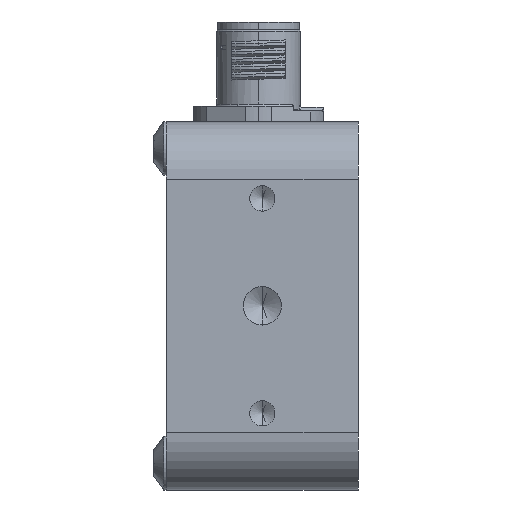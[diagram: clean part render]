
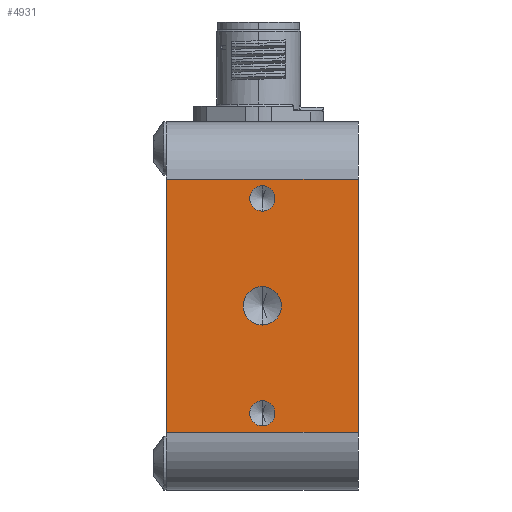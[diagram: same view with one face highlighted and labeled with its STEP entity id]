
A CAD part, left-side view. The second image highlights one B-rep face of the part: STEP entity #4931.
In plain terms, the highlighted planar face has unit normal (-1, 0, 0).
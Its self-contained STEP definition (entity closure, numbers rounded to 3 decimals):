
#75 = CARTESIAN_POINT ( 'NONE',  ( 0., 12.5, 26.5 ) ) ;
#262 = CARTESIAN_POINT ( 'NONE',  ( 0., 12.5, 38. ) ) ;
#279 = DIRECTION ( 'NONE',  ( 0., 0., 1. ) ) ;
#638 = DIRECTION ( 'NONE',  ( -1., 0., 0. ) ) ;
#695 = AXIS2_PLACEMENT_3D ( 'NONE', #15719, #638, #20597 ) ;
#737 = CARTESIAN_POINT ( 'NONE',  ( 0., 12.5, 38. ) ) ;
#1590 = CARTESIAN_POINT ( 'NONE',  ( 0., 12.5, 10. ) ) ;
#1693 = DIRECTION ( 'NONE',  ( 0., 0., 1. ) ) ;
#1739 = CARTESIAN_POINT ( 'NONE',  ( 0., 12.5, 36.35 ) ) ;
#2311 = AXIS2_PLACEMENT_3D ( 'NONE', #6592, #19310, #1693 ) ;
#2614 = DIRECTION ( 'NONE',  ( -1., 0., 0. ) ) ;
#2792 = ORIENTED_EDGE ( 'NONE', *, *, #28668, .F. ) ;
#3279 = EDGE_CURVE ( 'NONE', #31564, #24330, #29574, .T. ) ;
#3411 = CARTESIAN_POINT ( 'NONE',  ( 0., 25., 0. ) ) ;
#3645 = VECTOR ( 'NONE', #25934, 1000. ) ;
#3690 = ORIENTED_EDGE ( 'NONE', *, *, #31769, .T. ) ;
#3875 = CARTESIAN_POINT ( 'NONE',  ( 0., 12.5, 11.65 ) ) ;
#3916 = VECTOR ( 'NONE', #5023, 1000. ) ;
#4269 = EDGE_CURVE ( 'NONE', #18481, #30234, #5197, .T. ) ;
#4931 = ADVANCED_FACE ( 'NONE', ( #14937, #30101, #21722, #6259 ), #16499, .T. ) ;
#5023 = DIRECTION ( 'NONE',  ( 0., 1., 0. ) ) ;
#5197 = CIRCLE ( 'NONE', #11159, 1.65 ) ;
#5519 = DIRECTION ( 'NONE',  ( -1., 0., 0. ) ) ;
#5601 = ORIENTED_EDGE ( 'NONE', *, *, #21090, .F. ) ;
#6259 = FACE_OUTER_BOUND ( 'NONE', #31406, .T. ) ;
#6376 = EDGE_CURVE ( 'NONE', #30234, #18481, #15571, .T. ) ;
#6592 = CARTESIAN_POINT ( 'NONE',  ( 0., 12.5, 10. ) ) ;
#6745 = CARTESIAN_POINT ( 'NONE',  ( 0., 0., 0. ) ) ;
#7121 = CIRCLE ( 'NONE', #695, 2.5 ) ;
#7231 = CARTESIAN_POINT ( 'NONE',  ( 0., 0., 0. ) ) ;
#8272 = LINE ( 'NONE', #17525, #3916 ) ;
#9904 = LINE ( 'NONE', #7231, #28195 ) ;
#9927 = CARTESIAN_POINT ( 'NONE',  ( 0., 0., 40.5 ) ) ;
#10405 = ORIENTED_EDGE ( 'NONE', *, *, #20151, .T. ) ;
#10907 = EDGE_CURVE ( 'NONE', #19944, #21569, #26283, .T. ) ;
#11159 = AXIS2_PLACEMENT_3D ( 'NONE', #737, #5519, #279 ) ;
#11516 = DIRECTION ( 'NONE',  ( 0., -1., 0. ) ) ;
#12112 = ORIENTED_EDGE ( 'NONE', *, *, #29684, .F. ) ;
#13001 = ORIENTED_EDGE ( 'NONE', *, *, #3279, .F. ) ;
#13148 = CIRCLE ( 'NONE', #24541, 2.5 ) ;
#13370 = DIRECTION ( 'NONE',  ( -1., 0., 0. ) ) ;
#13476 = CARTESIAN_POINT ( 'NONE',  ( 0., 25., 40.5 ) ) ;
#14849 = CARTESIAN_POINT ( 'NONE',  ( 0., 0., 7.5 ) ) ;
#14937 = FACE_BOUND ( 'NONE', #26572, .T. ) ;
#15571 = CIRCLE ( 'NONE', #22886, 1.65 ) ;
#15719 = CARTESIAN_POINT ( 'NONE',  ( 0., 12.5, 24. ) ) ;
#16345 = CARTESIAN_POINT ( 'NONE',  ( 0., 25., 7.5 ) ) ;
#16354 = VERTEX_POINT ( 'NONE', #75 ) ;
#16499 = PLANE ( 'NONE',  #21781 ) ;
#17259 = VERTEX_POINT ( 'NONE', #18306 ) ;
#17337 = LINE ( 'NONE', #29089, #26900 ) ;
#17525 = CARTESIAN_POINT ( 'NONE',  ( 0., 0., 40.5 ) ) ;
#18016 = DIRECTION ( 'NONE',  ( 0., 0., 1. ) ) ;
#18306 = CARTESIAN_POINT ( 'NONE',  ( 0., 12.5, 21.5 ) ) ;
#18481 = VERTEX_POINT ( 'NONE', #20402 ) ;
#19309 = DIRECTION ( 'NONE',  ( -1., 0., 0. ) ) ;
#19310 = DIRECTION ( 'NONE',  ( -1., 0., 0. ) ) ;
#19355 = DIRECTION ( 'NONE',  ( 0., 0., 1. ) ) ;
#19944 = VERTEX_POINT ( 'NONE', #16345 ) ;
#20151 = EDGE_CURVE ( 'NONE', #30699, #21569, #8272, .T. ) ;
#20361 = ORIENTED_EDGE ( 'NONE', *, *, #10907, .F. ) ;
#20402 = CARTESIAN_POINT ( 'NONE',  ( 0., 12.5, 39.65 ) ) ;
#20597 = DIRECTION ( 'NONE',  ( 0., 0., 1. ) ) ;
#21090 = EDGE_CURVE ( 'NONE', #16354, #17259, #7121, .T. ) ;
#21569 = VERTEX_POINT ( 'NONE', #13476 ) ;
#21722 = FACE_BOUND ( 'NONE', #27550, .T. ) ;
#21781 = AXIS2_PLACEMENT_3D ( 'NONE', #6745, #24478, #19355 ) ;
#22324 = CIRCLE ( 'NONE', #29942, 1.65 ) ;
#22886 = AXIS2_PLACEMENT_3D ( 'NONE', #262, #13370, #18016 ) ;
#23301 = ORIENTED_EDGE ( 'NONE', *, *, #6376, .F. ) ;
#24330 = VERTEX_POINT ( 'NONE', #3875 ) ;
#24478 = DIRECTION ( 'NONE',  ( -1., 0., 0. ) ) ;
#24541 = AXIS2_PLACEMENT_3D ( 'NONE', #30737, #2614, #28033 ) ;
#25542 = ORIENTED_EDGE ( 'NONE', *, *, #4269, .F. ) ;
#25934 = DIRECTION ( 'NONE',  ( 0., 0., 1. ) ) ;
#26283 = LINE ( 'NONE', #3411, #3645 ) ;
#26572 = EDGE_LOOP ( 'NONE', ( #12112, #13001 ) ) ;
#26670 = CARTESIAN_POINT ( 'NONE',  ( 0., 12.5, 8.35 ) ) ;
#26900 = VECTOR ( 'NONE', #11516, 1000. ) ;
#27550 = EDGE_LOOP ( 'NONE', ( #5601, #2792 ) ) ;
#28033 = DIRECTION ( 'NONE',  ( 0., 0., 1. ) ) ;
#28134 = ORIENTED_EDGE ( 'NONE', *, *, #28206, .T. ) ;
#28195 = VECTOR ( 'NONE', #30218, 1000. ) ;
#28206 = EDGE_CURVE ( 'NONE', #19944, #29864, #17337, .T. ) ;
#28668 = EDGE_CURVE ( 'NONE', #17259, #16354, #13148, .T. ) ;
#29089 = CARTESIAN_POINT ( 'NONE',  ( 0., 0., 7.5 ) ) ;
#29574 = CIRCLE ( 'NONE', #2311, 1.65 ) ;
#29684 = EDGE_CURVE ( 'NONE', #24330, #31564, #22324, .T. ) ;
#29864 = VERTEX_POINT ( 'NONE', #14849 ) ;
#29942 = AXIS2_PLACEMENT_3D ( 'NONE', #1590, #19309, #32150 ) ;
#30101 = FACE_BOUND ( 'NONE', #32256, .T. ) ;
#30218 = DIRECTION ( 'NONE',  ( 0., 0., 1. ) ) ;
#30234 = VERTEX_POINT ( 'NONE', #1739 ) ;
#30699 = VERTEX_POINT ( 'NONE', #9927 ) ;
#30737 = CARTESIAN_POINT ( 'NONE',  ( 0., 12.5, 24. ) ) ;
#31406 = EDGE_LOOP ( 'NONE', ( #20361, #28134, #3690, #10405 ) ) ;
#31564 = VERTEX_POINT ( 'NONE', #26670 ) ;
#31769 = EDGE_CURVE ( 'NONE', #29864, #30699, #9904, .T. ) ;
#32150 = DIRECTION ( 'NONE',  ( 0., 0., 1. ) ) ;
#32256 = EDGE_LOOP ( 'NONE', ( #25542, #23301 ) ) ;
